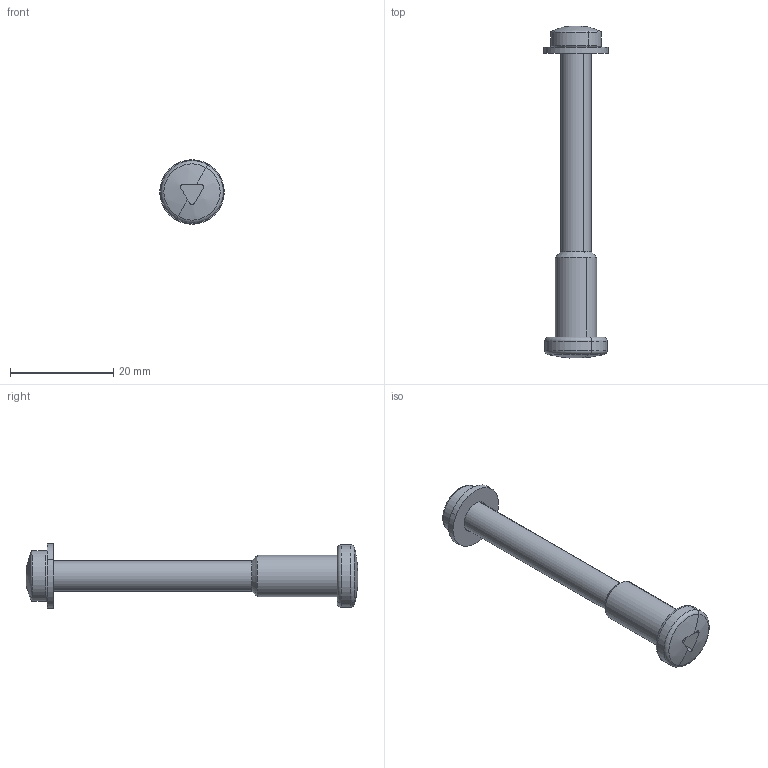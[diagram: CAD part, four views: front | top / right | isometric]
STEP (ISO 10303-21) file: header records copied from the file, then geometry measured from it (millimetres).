
FILE_DESCRIPTION (( 'STEP AP203' ), '1' );
FILE_NAME ('RAILEX STANDARD RXH-SFK06TL-K.STEP', '2021-06-17T14:59:29', ( '' ), ( '' ), 'SwSTEP 2.0', 'SolidWorks 2020', '' );
FILE_SCHEMA (( 'CONFIG_CONTROL_DESIGN' ));
Length unit declared in the file: millimetre
Products named in the file (4): RAILEX STANDARD Pan Socket Drive Barrel Nut M6; RAILEX STANDARD FLAT WASHER - M6_M6; RAILEX STANDARD RXH-SFK06TL-K; RAILEX STANDARD Pan Tri-lobular Barrel Bolt M6
Assembly tree (3 placements, depth 2):
  RAILEX STANDARD RXH-SFK06TL-K
    RAILEX STANDARD Pan Tri-lobular Barrel Bolt M6
    RAILEX STANDARD Pan Socket Drive Barrel Nut M6
    RAILEX STANDARD FLAT WASHER - M6_M6
Bounding box: 12.5 x 64.34 x 12.5 mm (x, y, z)
Volume: 2605.2 mm3; surface area: 2467.9 mm2
Topology: 3 solids, 3 shells, 54 faces, 120 edges, 73 vertices
Faces by surface type: cylinder 22, plane 14, torus 8, cone 6, sphere 4
Entity records: 1950 total; most frequent: CARTESIAN_POINT 303, DIRECTION 300, ORIENTED_EDGE 236, AXIS2_PLACEMENT_3D 130, EDGE_CURVE 118, VERTEX_POINT 73, CIRCLE 70, EDGE_LOOP 59
